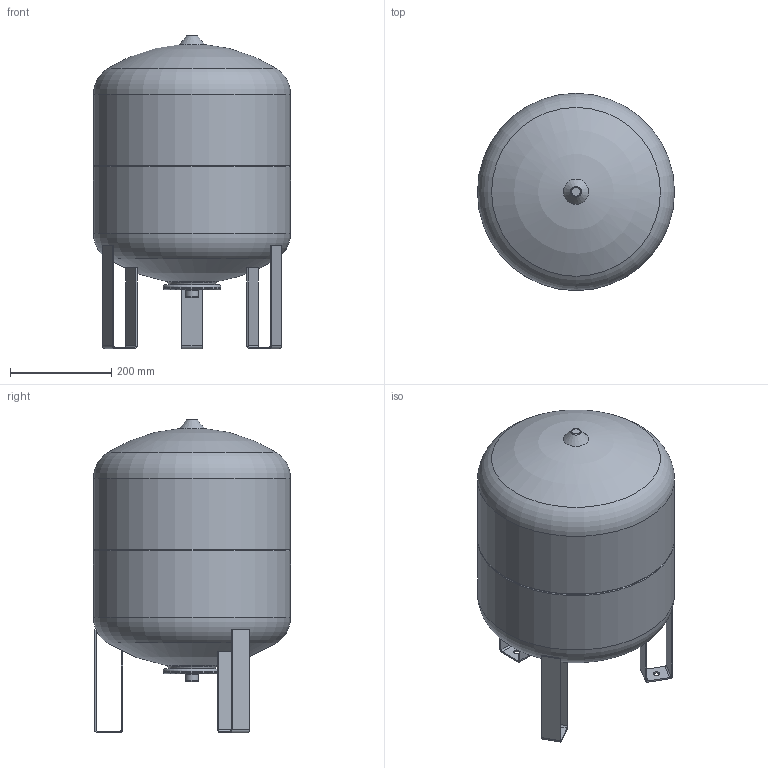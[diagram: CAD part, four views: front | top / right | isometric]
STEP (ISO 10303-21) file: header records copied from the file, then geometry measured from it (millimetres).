
FILE_DESCRIPTION(('STEP AP242'), '1');
FILE_NAME('VT.A.R.050050', '', ('UNSPECIFIED'), ('UNSPECIFIED'), 'C3D Converter', 'C3D Toolkit', '');
FILE_SCHEMA(('AP242_MANAGED_MODEL_BASED_3D_ENGINEERING_MIM_LF { 1 0 10303 442 1 1 4 }'));
Length unit declared in the file: millimetre
Bounding box: 390 x 390 x 620.3 mm (x, y, z)
Volume: 48683409.3 mm3; surface area: 793149.8 mm2
Topology: 4 solids, 4 shells, 84 faces, 224 edges, 154 vertices
Faces by surface type: plane 38, cylinder 21, torus 16, cone 7, sphere 2
Full cylindrical faces by diameter (mm): 13 x3, 20 x1, 26 x1, 78 x1, 114 x1, 390 x2
Entity records: 2586 total; most frequent: DIRECTION 466, CARTESIAN_POINT 429, ORIENTED_EDGE 380, AXIS2_PLACEMENT_3D 191, EDGE_CURVE 190, VERTEX_POINT 154, EDGE_LOOP 130, FACE_BOUND 124
